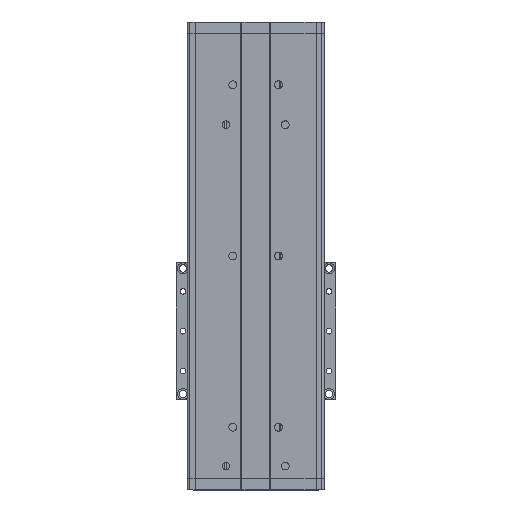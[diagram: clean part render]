
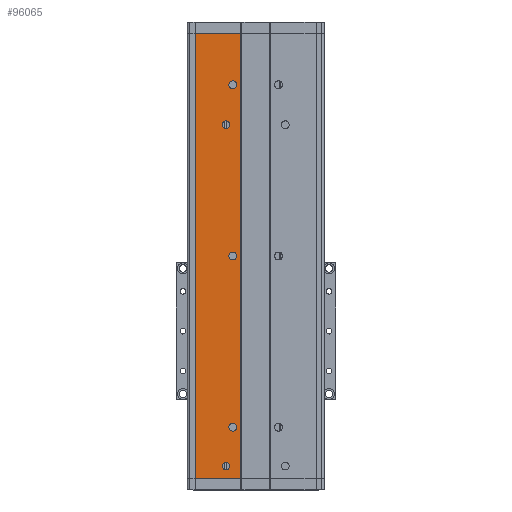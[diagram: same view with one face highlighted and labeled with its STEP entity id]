
A CAD part, front view. The second image highlights one B-rep face of the part: STEP entity #96065.
In plain terms, the highlighted planar face has unit normal (0, -1, 0).
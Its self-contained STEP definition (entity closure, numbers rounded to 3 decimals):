
#743 = CARTESIAN_POINT ( 'NONE',  ( -7.69, -28.09, 345. ) ) ;
#1665 = DIRECTION ( 'NONE',  ( 0., -1., 0. ) ) ;
#2079 = EDGE_CURVE ( 'NONE', #70792, #38861, #96095, .T. ) ;
#2171 = CARTESIAN_POINT ( 'NONE',  ( -7.69, -28.09, 41.5 ) ) ;
#3360 = CIRCLE ( 'NONE', #99107, 3.4 ) ;
#4038 = CARTESIAN_POINT ( 'NONE',  ( -7.69, -28.09, 195. ) ) ;
#5338 = VERTEX_POINT ( 'NONE', #91544 ) ;
#5574 = ORIENTED_EDGE ( 'NONE', *, *, #51776, .T. ) ;
#5954 = DIRECTION ( 'NONE',  ( 0., 1., 0. ) ) ;
#10291 = CARTESIAN_POINT ( 'NONE',  ( -0.69, -28.09, 390. ) ) ;
#10766 = DIRECTION ( 'NONE',  ( 0., 0., 1. ) ) ;
#11127 = ORIENTED_EDGE ( 'NONE', *, *, #102455, .F. ) ;
#11576 = VERTEX_POINT ( 'NONE', #86826 ) ;
#12271 = VERTEX_POINT ( 'NONE', #76660 ) ;
#14084 = DIRECTION ( 'NONE',  ( 0., 0., 1. ) ) ;
#15178 = FACE_OUTER_BOUND ( 'NONE', #103199, .T. ) ;
#15930 = CARTESIAN_POINT ( 'NONE',  ( -7.69, -28.09, 191.5 ) ) ;
#16023 = CIRCLE ( 'NONE', #56749, 3.5 ) ;
#17462 = ORIENTED_EDGE ( 'NONE', *, *, #63278, .T. ) ;
#21144 = VERTEX_POINT ( 'NONE', #63516 ) ;
#21984 = ORIENTED_EDGE ( 'NONE', *, *, #99417, .T. ) ;
#22553 = ORIENTED_EDGE ( 'NONE', *, *, #108195, .T. ) ;
#24825 = AXIS2_PLACEMENT_3D ( 'NONE', #4038, #73653, #14084 ) ;
#25122 = CARTESIAN_POINT ( 'NONE',  ( -7.69, -28.09, 341.5 ) ) ;
#26420 = CIRCLE ( 'NONE', #91990, 3.5 ) ;
#26713 = DIRECTION ( 'NONE',  ( 0., -1., 0. ) ) ;
#27165 = EDGE_CURVE ( 'NONE', #38861, #70792, #71530, .T. ) ;
#27681 = AXIS2_PLACEMENT_3D ( 'NONE', #31428, #101010, #41454 ) ;
#27955 = AXIS2_PLACEMENT_3D ( 'NONE', #61282, #1665, #71245 ) ;
#31428 = CARTESIAN_POINT ( 'NONE',  ( -7.69, -28.09, 45. ) ) ;
#31932 = ORIENTED_EDGE ( 'NONE', *, *, #91925, .F. ) ;
#32274 = DIRECTION ( 'NONE',  ( 0., -1., 0. ) ) ;
#32291 = DIRECTION ( 'NONE',  ( 0., 0., -1. ) ) ;
#34464 = AXIS2_PLACEMENT_3D ( 'NONE', #743, #70323, #10766 ) ;
#34507 = CARTESIAN_POINT ( 'NONE',  ( -13.69, -28.09, 7.6 ) ) ;
#38603 = VERTEX_POINT ( 'NONE', #59389 ) ;
#38861 = VERTEX_POINT ( 'NONE', #34507 ) ;
#39023 = CIRCLE ( 'NONE', #34464, 3.5 ) ;
#40091 = VERTEX_POINT ( 'NONE', #58749 ) ;
#40460 = EDGE_LOOP ( 'NONE', ( #63722, #11127 ) ) ;
#41026 = CIRCLE ( 'NONE', #27681, 3.5 ) ;
#41112 = ORIENTED_EDGE ( 'NONE', *, *, #102242, .T. ) ;
#41454 = DIRECTION ( 'NONE',  ( 0., 0., 1. ) ) ;
#41485 = DIRECTION ( 'NONE',  ( 1., 0., 0. ) ) ;
#41657 = FACE_BOUND ( 'NONE', #40460, .T. ) ;
#42047 = CARTESIAN_POINT ( 'NONE',  ( -13.69, -28.09, 310. ) ) ;
#43298 = AXIS2_PLACEMENT_3D ( 'NONE', #45983, #115567, #55980 ) ;
#44443 = CARTESIAN_POINT ( 'NONE',  ( -7.69, -28.09, 345. ) ) ;
#44756 = FACE_BOUND ( 'NONE', #108537, .T. ) ;
#45003 = LINE ( 'NONE', #111938, #121260 ) ;
#45490 = VECTOR ( 'NONE', #63552, 1000. ) ;
#45983 = CARTESIAN_POINT ( 'NONE',  ( -40.69, -28.09, 390. ) ) ;
#46401 = CARTESIAN_POINT ( 'NONE',  ( -7.69, -28.09, 45. ) ) ;
#50408 = VERTEX_POINT ( 'NONE', #2171 ) ;
#50948 = EDGE_CURVE ( 'NONE', #90841, #5338, #39023, .T. ) ;
#51776 = EDGE_CURVE ( 'NONE', #5338, #90841, #26420, .T. ) ;
#52024 = DIRECTION ( 'NONE',  ( 0., 0., 1. ) ) ;
#52064 = CARTESIAN_POINT ( 'NONE',  ( -13.69, -28.09, 14.4 ) ) ;
#54417 = DIRECTION ( 'NONE',  ( 0., 0., 1. ) ) ;
#55494 = LINE ( 'NONE', #61494, #105294 ) ;
#55980 = DIRECTION ( 'NONE',  ( 0., 0., 1. ) ) ;
#56102 = ORIENTED_EDGE ( 'NONE', *, *, #2079, .F. ) ;
#56405 = DIRECTION ( 'NONE',  ( 0., 0., 1. ) ) ;
#56749 = AXIS2_PLACEMENT_3D ( 'NONE', #65574, #5954, #75536 ) ;
#57846 = CARTESIAN_POINT ( 'NONE',  ( -7.69, -28.09, 198.5 ) ) ;
#58749 = CARTESIAN_POINT ( 'NONE',  ( -13.69, -28.09, 313.4 ) ) ;
#59389 = CARTESIAN_POINT ( 'NONE',  ( -40.69, -28.09, 390. ) ) ;
#60660 = VERTEX_POINT ( 'NONE', #57846 ) ;
#61282 = CARTESIAN_POINT ( 'NONE',  ( -13.69, -28.09, 11. ) ) ;
#61494 = CARTESIAN_POINT ( 'NONE',  ( -40.69, -28.09, 0. ) ) ;
#63278 = EDGE_CURVE ( 'NONE', #93586, #60660, #16023, .T. ) ;
#63516 = CARTESIAN_POINT ( 'NONE',  ( -0.69, -28.09, 0. ) ) ;
#63552 = DIRECTION ( 'NONE',  ( 1., 0., 0. ) ) ;
#63722 = ORIENTED_EDGE ( 'NONE', *, *, #110772, .F. ) ;
#65574 = CARTESIAN_POINT ( 'NONE',  ( -7.69, -28.09, 195. ) ) ;
#68062 = FACE_BOUND ( 'NONE', #99776, .T. ) ;
#68595 = CARTESIAN_POINT ( 'NONE',  ( -40.69, -28.09, 390. ) ) ;
#69101 = ORIENTED_EDGE ( 'NONE', *, *, #118151, .T. ) ;
#70323 = DIRECTION ( 'NONE',  ( 0., 1., 0. ) ) ;
#70792 = VERTEX_POINT ( 'NONE', #52064 ) ;
#71245 = DIRECTION ( 'NONE',  ( 0., 0., 1. ) ) ;
#71530 = CIRCLE ( 'NONE', #108219, 3.4 ) ;
#73653 = DIRECTION ( 'NONE',  ( 0., 1., 0. ) ) ;
#74466 = EDGE_LOOP ( 'NONE', ( #123758, #56102 ) ) ;
#75536 = DIRECTION ( 'NONE',  ( 0., 0., 1. ) ) ;
#76219 = ORIENTED_EDGE ( 'NONE', *, *, #50948, .T. ) ;
#76660 = CARTESIAN_POINT ( 'NONE',  ( -13.69, -28.09, 306.6 ) ) ;
#77067 = EDGE_CURVE ( 'NONE', #91166, #21144, #45003, .T. ) ;
#82668 = CIRCLE ( 'NONE', #97027, 3.4 ) ;
#83500 = CARTESIAN_POINT ( 'NONE',  ( -40.69, -28.09, 390. ) ) ;
#86255 = CARTESIAN_POINT ( 'NONE',  ( -13.69, -28.09, 310. ) ) ;
#86826 = CARTESIAN_POINT ( 'NONE',  ( -7.69, -28.09, 48.5 ) ) ;
#86869 = CIRCLE ( 'NONE', #88615, 3.5 ) ;
#88553 = DIRECTION ( 'NONE',  ( 0., 0., -1. ) ) ;
#88615 = AXIS2_PLACEMENT_3D ( 'NONE', #46401, #115993, #56405 ) ;
#90841 = VERTEX_POINT ( 'NONE', #25122 ) ;
#91166 = VERTEX_POINT ( 'NONE', #10291 ) ;
#91524 = ORIENTED_EDGE ( 'NONE', *, *, #106629, .T. ) ;
#91544 = CARTESIAN_POINT ( 'NONE',  ( -7.69, -28.09, 348.5 ) ) ;
#91864 = CARTESIAN_POINT ( 'NONE',  ( -13.69, -28.09, 11. ) ) ;
#91925 = EDGE_CURVE ( 'NONE', #38603, #91166, #95265, .T. ) ;
#91990 = AXIS2_PLACEMENT_3D ( 'NONE', #44443, #114054, #54417 ) ;
#92728 = CARTESIAN_POINT ( 'NONE',  ( -40.69, -28.09, 0. ) ) ;
#93586 = VERTEX_POINT ( 'NONE', #15930 ) ;
#94513 = FACE_BOUND ( 'NONE', #74466, .T. ) ;
#95162 = LINE ( 'NONE', #68595, #121638 ) ;
#95265 = LINE ( 'NONE', #83500, #45490 ) ;
#96065 = ADVANCED_FACE ( 'NONE', ( #44756, #100804, #68062, #94513, #41657, #15178 ), #105120, .F. ) ;
#96095 = CIRCLE ( 'NONE', #27955, 3.4 ) ;
#96276 = DIRECTION ( 'NONE',  ( 0., 0., 1. ) ) ;
#97027 = AXIS2_PLACEMENT_3D ( 'NONE', #42047, #111635, #52024 ) ;
#99107 = AXIS2_PLACEMENT_3D ( 'NONE', #86255, #26713, #96276 ) ;
#99417 = EDGE_CURVE ( 'NONE', #11576, #50408, #41026, .T. ) ;
#99776 = EDGE_LOOP ( 'NONE', ( #21984, #69101 ) ) ;
#100804 = FACE_BOUND ( 'NONE', #113595, .T. ) ;
#101010 = DIRECTION ( 'NONE',  ( 0., 1., 0. ) ) ;
#101901 = DIRECTION ( 'NONE',  ( 0., 0., 1. ) ) ;
#102242 = EDGE_CURVE ( 'NONE', #38603, #104874, #95162, .T. ) ;
#102455 = EDGE_CURVE ( 'NONE', #40091, #12271, #82668, .T. ) ;
#103199 = EDGE_LOOP ( 'NONE', ( #91524, #103967, #31932, #41112 ) ) ;
#103967 = ORIENTED_EDGE ( 'NONE', *, *, #77067, .F. ) ;
#104874 = VERTEX_POINT ( 'NONE', #92728 ) ;
#105120 = PLANE ( 'NONE',  #43298 ) ;
#105294 = VECTOR ( 'NONE', #41485, 1000. ) ;
#106629 = EDGE_CURVE ( 'NONE', #104874, #21144, #55494, .T. ) ;
#108195 = EDGE_CURVE ( 'NONE', #60660, #93586, #125168, .T. ) ;
#108219 = AXIS2_PLACEMENT_3D ( 'NONE', #91864, #32274, #101901 ) ;
#108537 = EDGE_LOOP ( 'NONE', ( #5574, #76219 ) ) ;
#110772 = EDGE_CURVE ( 'NONE', #12271, #40091, #3360, .T. ) ;
#111635 = DIRECTION ( 'NONE',  ( 0., -1., 0. ) ) ;
#111938 = CARTESIAN_POINT ( 'NONE',  ( -0.69, -28.09, 390. ) ) ;
#113595 = EDGE_LOOP ( 'NONE', ( #22553, #17462 ) ) ;
#114054 = DIRECTION ( 'NONE',  ( 0., 1., 0. ) ) ;
#115567 = DIRECTION ( 'NONE',  ( 0., 1., 0. ) ) ;
#115993 = DIRECTION ( 'NONE',  ( 0., 1., 0. ) ) ;
#118151 = EDGE_CURVE ( 'NONE', #50408, #11576, #86869, .T. ) ;
#121260 = VECTOR ( 'NONE', #32291, 1000. ) ;
#121638 = VECTOR ( 'NONE', #88553, 1000. ) ;
#123758 = ORIENTED_EDGE ( 'NONE', *, *, #27165, .F. ) ;
#125168 = CIRCLE ( 'NONE', #24825, 3.5 ) ;
